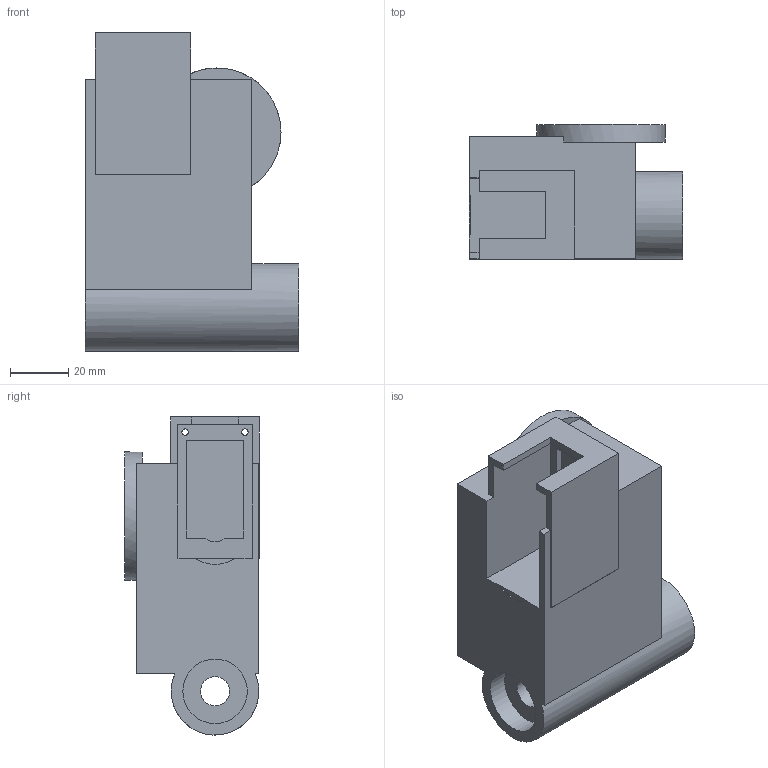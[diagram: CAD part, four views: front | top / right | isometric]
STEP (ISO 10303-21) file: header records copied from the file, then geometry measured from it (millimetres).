
FILE_DESCRIPTION(('Open CASCADE Model'),'2;1');
FILE_NAME('Open CASCADE Shape Model','2026-10-02T23:27:36',('Author'),( 'Open CASCADE'),'Open CASCADE STEP processor 7.9','Open CASCADE 7.9' ,'Unknown');
FILE_SCHEMA(('AUTOMOTIVE_DESIGN { 1 0 10303 214 1 1 1 1 }'));
Length unit declared in the file: millimetre
Products named in the file (1): Open CASCADE STEP translator 7.9 3
Bounding box: 73 x 46.2 x 109 mm (x, y, z)
Volume: 182271.3 mm3; surface area: 36229.8 mm2
Topology: 1 solids, 2 shells, 71 faces, 168 edges, 112 vertices
Faces by surface type: plane 55, cylinder 16
Full cylindrical faces by diameter (mm): 2.2 x2, 2.8 x4, 4.4 x2, 8.3 x1, 10 x1, 22.1 x2, 30 x1, 44 x1
Entity records: 4253 total; most frequent: CARTESIAN_POINT 830, DIRECTION 627, LINE 392, VECTOR 392, ORIENTED_EDGE 336, PCURVE 336, DEFINITIONAL_REPRESENTATION 336, EDGE_CURVE 168
